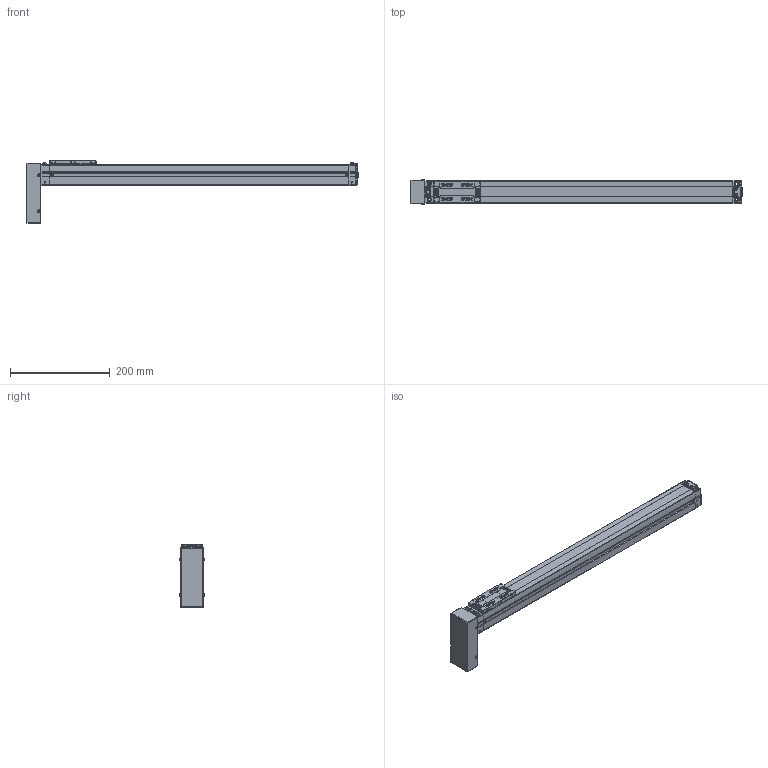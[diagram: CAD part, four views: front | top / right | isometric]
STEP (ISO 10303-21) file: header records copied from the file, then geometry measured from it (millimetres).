
FILE_DESCRIPTION(('STEP AP214'),'1');
FILE_NAME('Z:/Web/3D/SAN45/2013.ver/STP/SAN45ㅁㅁ-500PB.stp','2013-05-15T12:06:02',(' '),(' '),'Spatial InterOp 3D',' ',' ');
FILE_SCHEMA(('automotive_design'));
Length unit declared in the file: millimetre
Products named in the file (28): BODY-SAN45; REAR-SAN45; RRCV-SAN45; BHCS M3 x 6L; BHCS M3 X 6L; FRONT-SAN45; SHAFT; RN8 x 0.75; SSFX-SAN45; SLIDE-SAN45; SLCV-IM45; FHCS M3 x 6L; BTCV-SAN45
Bounding box: 666.15 x 51.13 x 126 mm (x, y, z)
Volume: 1320934.6 mm3; surface area: 192209.3 mm2
Topology: 28 solids, 28 shells, 1729 faces, 4493 edges, 2892 vertices
Faces by surface type: plane 887, cylinder 608, cone 136, bspline 40, sphere 40, torus 12, extrusion 6
Entity records: 71098 total; most frequent: CARTESIAN_POINT 13489, DIRECTION 9333, ORIENTED_EDGE 8866, EDGE_CURVE 4433, AXIS2_PLACEMENT_3D 3291, VERTEX_POINT 2892, VECTOR 2751, LINE 2745
